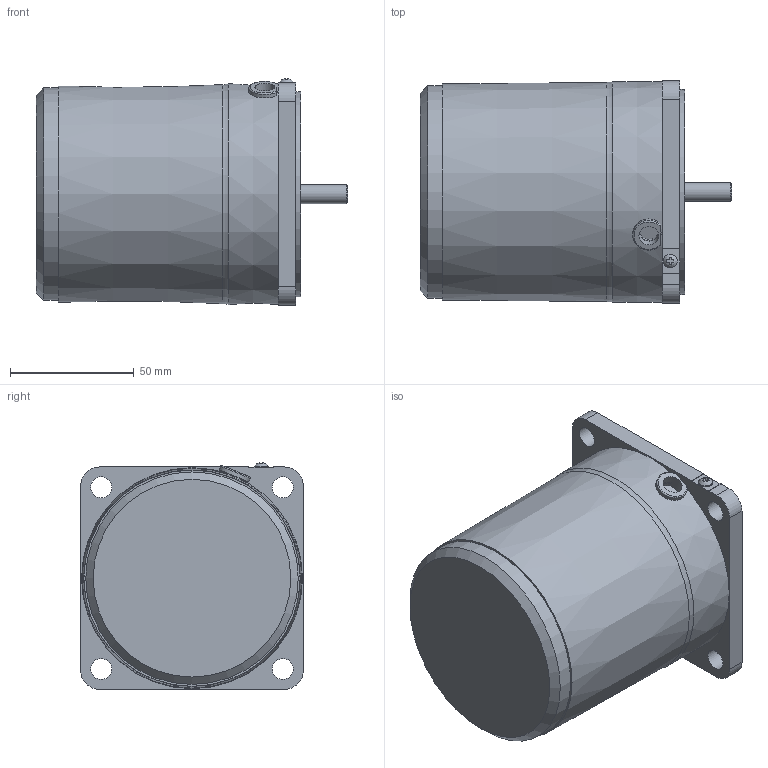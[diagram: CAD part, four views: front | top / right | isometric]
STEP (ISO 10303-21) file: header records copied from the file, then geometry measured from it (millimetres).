
FILE_DESCRIPTION(/* description */ (''),/* implementation_level */ '2;1');
FILE_NAME(/* name */ 'E:\도면작업\2016\0704) 미주향 SG 도면\3D MOTOR\SG9I40G_.stp',/* time_stamp */ '2016-07-22T13:48:37+09:00',/* author */ ('jy-jung'),/* organization */ (''),/* preprocessor_version */ 'ST-DEVELOPER v15.6',/* originating_system */ 'Autodesk Inventor 2015',/* authorisation */ '');
FILE_SCHEMA (('AUTOMOTIVE_DESIGN { 1 0 10303 214 3 1 1 }'));
Length unit declared in the file: millimetre
Products named in the file (1): 부품2
Bounding box: 126.1 x 90 x 91.76 mm (x, y, z)
Volume: 645913.8 mm3; surface area: 48855.2 mm2
Topology: 1 solids, 2 shells, 90 faces, 239 edges, 162 vertices
Faces by surface type: plane 56, cylinder 27, cone 4, torus 2, bspline 1
Full cylindrical faces by diameter (mm): 5.6 x1, 7.62 x1, 8 x1, 8.5 x4, 10 x1, 40 x1, 83 x1, 86 x1
Entity records: 2919 total; most frequent: CARTESIAN_POINT 605, DIRECTION 448, ORIENTED_EDGE 428, EDGE_CURVE 214, AXIS2_PLACEMENT_3D 163, VERTEX_POINT 154, EDGE_LOOP 126, LINE 122
